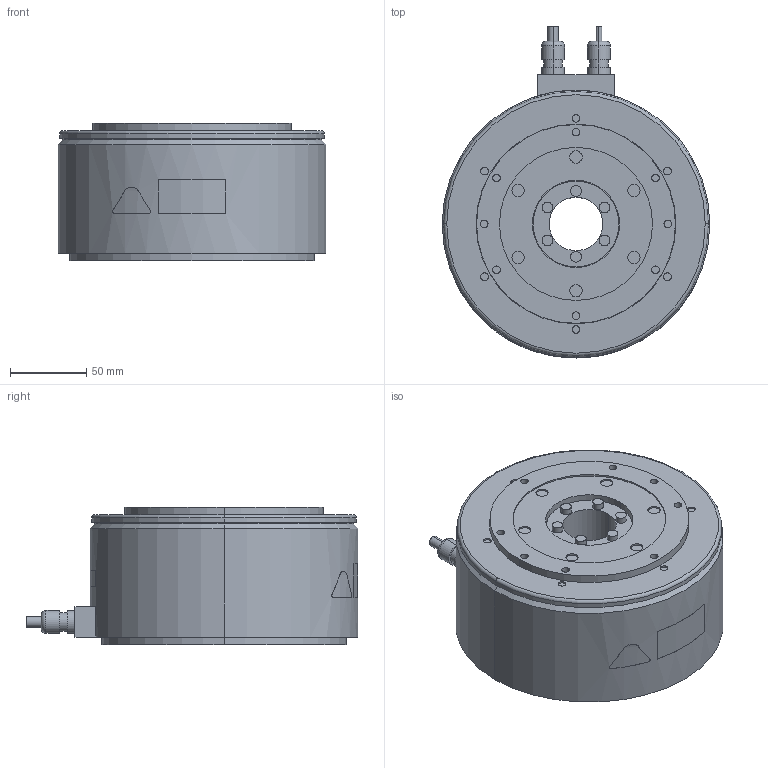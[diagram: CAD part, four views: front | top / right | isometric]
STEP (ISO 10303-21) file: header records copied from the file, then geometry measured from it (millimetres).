
FILE_DESCRIPTION (( 'STEP AP203' ), '1' );
FILE_NAME ('sgm7e_10c_a4_.STEP', '2016-05-30T07:28:28', ( '' ), ( '' ), 'SwSTEP 2.0', 'SolidWorks 2010', '' );
FILE_SCHEMA (( 'CONFIG_CONTROL_DESIGN' ));
Length unit declared in the file: millimetre
Products named in the file (1): sgm7e_10c_a4_
Bounding box: 175 x 217 x 90 mm (x, y, z)
Volume: 1999731.6 mm3; surface area: 113836.2 mm2
Topology: 1 solids, 1 shells, 192 faces, 396 edges, 260 vertices
Faces by surface type: cylinder 110, plane 67, torus 6, bspline 5, cone 4
Entity records: 5754 total; most frequent: CARTESIAN_POINT 1393, DIRECTION 996, ORIENTED_EDGE 792, AXIS2_PLACEMENT_3D 428, EDGE_CURVE 396, VERTEX_POINT 260, EDGE_LOOP 248, CIRCLE 240
